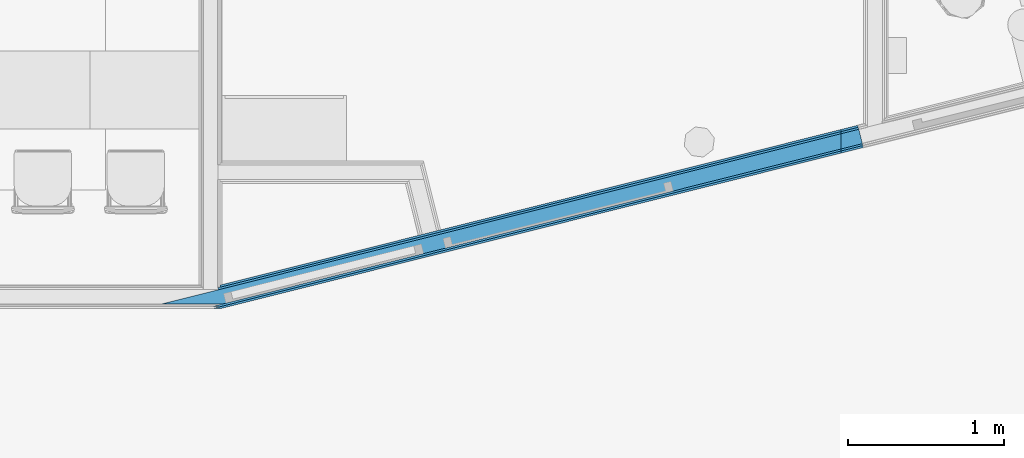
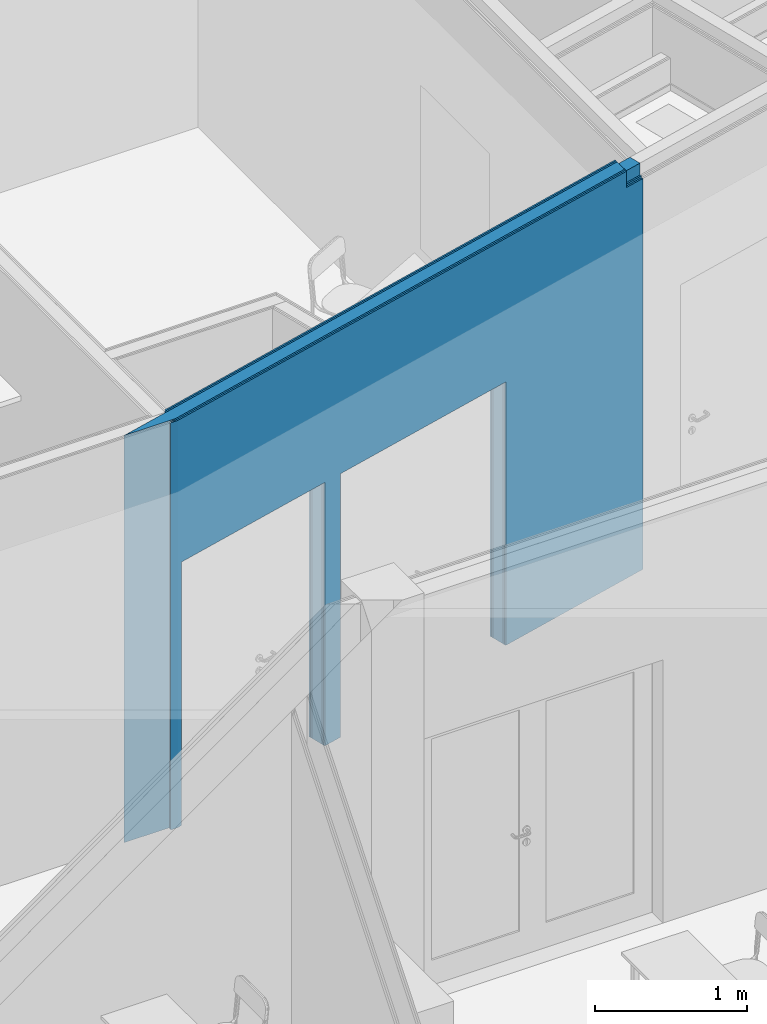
# One storey, part 53 of 153: 5 building element parts, 2 openings, 1 element without a shape of its own.
"""IFC2X3 building model written with IfcOpenShell, lengths in millimetres."""

from ifc_helpers import new_model, entity, si_unit, converted_unit, derived_unit, money_unit, direction, frame, origin_with_axes, place, context, subcontext, project, spatial, faceted_brep, material, type_object, element, aggregate, save


model = new_model("IFC2X3")

# Units and contexts
model_context = context("Model", 3, precision=0.01, world=origin_with_axes(), true_north=direction((0.0, 1.0)))
body_context = subcontext(model_context, "Body", "Model", "MODEL_VIEW")
ifc_project = project(units=[si_unit("LENGTHUNIT", "METRE", prefix="MILLI"), si_unit("AREAUNIT", "SQUARE_METRE"), si_unit("VOLUMEUNIT", "CUBIC_METRE"), converted_unit("PLANEANGLEUNIT", "DEGREE", entity("IfcPlaneAngleMeasure", 0.0174532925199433), si_unit("PLANEANGLEUNIT", "RADIAN"), dimensions=[0, 0, 0, 0, 0, 0, 0]), money_unit("EUR"), converted_unit("TIMEUNIT", "Year", entity("IfcTimeMeasure", 31557600.0), si_unit("TIMEUNIT", "SECOND"), dimensions=[0, 0, 1, 0, 0, 0, 0]), si_unit("MASSUNIT", "GRAM", prefix="KILO"), si_unit("THERMODYNAMICTEMPERATUREUNIT", "DEGREE_CELSIUS"), si_unit("LUMINOUSINTENSITYUNIT", "LUMEN"), si_unit("ENERGYUNIT", "JOULE", prefix="MEGA"), derived_unit("THERMALCONDUCTANCEUNIT", [(si_unit("POWERUNIT", "WATT"), 1), (si_unit("LENGTHUNIT", "METRE"), -1), (si_unit("THERMODYNAMICTEMPERATUREUNIT", "KELVIN"), -1)]), derived_unit("SPECIFICHEATCAPACITYUNIT", [(si_unit("ENERGYUNIT", "JOULE"), 1), (si_unit("MASSUNIT", "GRAM", prefix="KILO"), -1), (si_unit("THERMODYNAMICTEMPERATUREUNIT", "KELVIN"), -1)]), derived_unit("MASSDENSITYUNIT", [(si_unit("MASSUNIT", "GRAM", prefix="KILO"), 1), (si_unit("VOLUMEUNIT", "CUBIC_METRE"), -1)])], contexts=[model_context])

# Site, building, storey
site_placement = place(None, frame((0.0, 0.0, 8650.0), z_axis=(0.0, 0.0, 1.0), x_axis=(1.0, 0.0, 0.0)))
site = spatial("IfcSite", under=ifc_project, at=site_placement, Name="43301:001:0844", CompositionType="ELEMENT")
building_placement = place(site_placement, origin_with_axes())
building = spatial("IfcBuilding", under=site, at=building_placement, Name="Kuressaare Ametikooli tuulikute mehaanikute õppekorpus", CompositionType="ELEMENT")
storey_placement = place(building_placement, frame((0.0, 0.0, 4100.0), z_axis=(0.0, 0.0, 1.0), x_axis=(1.0, 0.0, 0.0)))
storey = spatial("IfcBuildingStorey", under=building, at=storey_placement, Name="2.korrus", CompositionType="ELEMENT", Elevation=4100.0)

# Wall, openings, building element parts
wall_type = type_object("IfcWallType", Name="SS-2.1 147", PredefinedType="NOTDEFINED")
wall_placement = place(storey_placement, frame((95668.0612605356, 18913.83737729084, 0.0), z_axis=(0.0, 0.0, 1.0), x_axis=(0.969995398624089, 0.2431232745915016, 0.0)))
wall = element("IfcWall", 1, at=wall_placement, inside=storey, type_object=wall_type, Name="Sisesein")
opening_1_placement = place(wall_placement, frame((2239.109441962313, 0.0, 0.0), z_axis=(0.0, 0.0, 1.0), x_axis=(1.0, 0.0, 0.0)))
element("IfcOpeningElement", 2, at=opening_1_placement, cuts=wall, Name="PU10+5,EI30", context=body_context, shape_type="Brep", body=[
    faceted_brep([(754.9999999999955, 1149.073947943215, 2110.0), (754.9999999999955, 1149.073947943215, 0.0), (-754.9999999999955, 1149.073947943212, 0.0), (-754.9999999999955, 1149.073947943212, 2110.0), (755.0000000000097, -1002.07394794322, 2110.0), (755.0000000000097, -1002.07394794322, 0.0), (-754.9999999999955, -1002.073947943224, 0.0), (-754.9999999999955, -1002.073947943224, 2110.0)], [[[0, 1, 2, 3]], [[4, 5, 1, 0]], [[5, 6, 2, 1]], [[6, 7, 3, 2]], [[7, 4, 0, 3]], [[6, 5, 4, 7]]]),
])
opening_2_placement = place(wall_placement, frame((686.9806939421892, 0.0, 0.0), z_axis=(0.0, 0.0, 1.0), x_axis=(1.0, 0.0, 0.0)))
element("IfcOpeningElement", 3, at=opening_2_placement, cuts=wall, Name="PU6,5+6,5", context=body_context, shape_type="Brep", body=[
    faceted_brep([(655.0000000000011, 1149.073947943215, 2110.0), (655.0000000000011, 1149.073947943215, 0.0), (-655.0000000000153, 1149.073947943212, 0.0), (-655.0000000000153, 1149.073947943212, 2110.0), (654.9999999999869, -1002.073947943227, 2110.0), (654.9999999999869, -1002.073947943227, 0.0), (-655.0000000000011, -1002.073947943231, 0.0), (-655.0000000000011, -1002.073947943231, 2110.0)], [[[0, 1, 2, 3]], [[4, 5, 1, 0]], [[5, 6, 2, 1]], [[6, 7, 3, 2]], [[7, 4, 0, 3]], [[6, 5, 4, 7]]]),
])
ifc_material_1 = material(Name="Kipsplaat")
building_element_part_1_placement = place(wall_placement, origin_with_axes())
building_element_part_1 = element("IfcBuildingElementPart", 4, at=building_element_part_1_placement, material=ifc_material_1, Name="Kipsplaat", context=body_context, shape_type="Brep", body=[
    faceted_brep([(31.98069394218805, 134.0000000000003, 0.0), (31.98069394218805, 134.0000000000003, 2110.0), (1341.980693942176, 134.0000000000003, 2110.0), (1341.980693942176, 134.0000000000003, 0.0), (1484.109441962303, 134.0000000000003, 0.0), (1484.109441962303, 134.0000000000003, 2110.0), (2994.109441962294, 134.0000000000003, 2110.0), (2994.109441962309, 133.9999999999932, 0.0), (4244.924289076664, 133.9999999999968, 0.0), (4244.924289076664, 133.9999999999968, 3129.999999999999), (4131.550842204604, 134.0000000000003, 3129.999999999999), (4131.553056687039, 133.9999999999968, 3259.999999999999), (20.19145186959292, 134.0000000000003, 3259.999999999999), (20.19145186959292, 134.0000000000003, 0.0), (31.98069394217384, 146.9999999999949, 0.0), (31.98069394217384, 146.9999999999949, 2110.0), (1341.980693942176, 146.9999999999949, 2110.0), (1341.980693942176, 146.9999999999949, 0.0), (1484.109441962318, 146.9999999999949, 0.0), (1484.109441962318, 146.9999999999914, 2110.0), (2994.109441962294, 146.9999999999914, 2110.0), (2994.109441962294, 146.9999999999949, 0.0), (4244.92428907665, 146.9999999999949, 0.0), (4244.92428907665, 146.9999999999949, 3129.999999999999), (4134.809209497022, 146.9999999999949, 3129.999999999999), (4134.811418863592, 147.000000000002, 3259.999999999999), (23.44982049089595, 146.9999999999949, 3259.999999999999), (23.44982049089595, 146.9999999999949, 0.0)], [[[0, 1, 2, 3, 4, 5, 6, 7, 8, 9, 10, 11, 12, 13]], [[1, 0, 14, 15]], [[2, 1, 15, 16]], [[3, 2, 16, 17]], [[3, 17, 18, 4]], [[4, 18, 19, 5]], [[5, 19, 20, 6]], [[6, 20, 21, 7]], [[21, 22, 8, 7]], [[8, 22, 23, 9]], [[23, 24, 10, 9]], [[25, 11, 10, 24]], [[26, 12, 11, 25]], [[26, 27, 13, 12]], [[14, 0, 13, 27]], [[15, 14, 27, 26, 25, 24, 23, 22, 21, 20, 19, 18, 17, 16]]]),
])
building_element_part_2_placement = place(wall_placement, origin_with_axes())
building_element_part_2 = element("IfcBuildingElementPart", 5, at=building_element_part_2_placement, material=ifc_material_1, Name="Kipsplaat", context=body_context, shape_type="Brep", body=[
    faceted_brep([(31.98069394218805, 120.9999999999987, 0.0), (31.98069394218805, 120.9999999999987, 2110.0), (1341.980693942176, 120.9999999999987, 2110.0), (1341.980693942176, 120.9999999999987, 0.0), (1484.109441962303, 120.9999999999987, 0.0), (1484.109441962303, 120.9999999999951, 2110.0), (2994.109441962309, 120.9999999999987, 2110.0), (2994.109441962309, 121.0000000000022, 0.0), (4244.924289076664, 120.9999999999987, 0.0), (4244.924289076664, 120.9999999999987, 3145.0), (4128.292474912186, 120.9999999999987, 3145.0), (4128.294694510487, 120.9999999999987, 3259.999999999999), (14.932987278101, 121.0000000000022, 3259.999999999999), (14.932987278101, 121.0000000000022, 0.0), (31.98069394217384, 134.0000000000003, 0.0), (31.98069394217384, 134.0000000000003, 2110.0), (1341.980693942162, 134.0000000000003, 2110.0), (1341.980693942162, 134.0000000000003, 0.0), (1484.109441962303, 134.0000000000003, 0.0), (1484.109441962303, 133.9999999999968, 2110.0), (2994.109441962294, 133.9999999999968, 2110.0), (2994.109441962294, 134.0000000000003, 0.0), (4244.924289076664, 134.0000000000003, 0.0), (4244.924289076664, 134.0000000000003, 3145.0), (4131.550842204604, 133.9999999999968, 3145.0), (4131.553056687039, 134.0000000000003, 3259.999999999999), (6.789326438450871, 134.0000000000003, 3259.999999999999), (4.204919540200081, 123.6889230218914, 3259.999999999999), (4.204919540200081, 123.6889230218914, 0.0), (6.789326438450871, 134.0000000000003, 0.0)], [[[0, 1, 2, 3, 4, 5, 6, 7, 8, 9, 10, 11, 12, 13]], [[1, 0, 14, 15]], [[2, 1, 15, 16]], [[3, 2, 16, 17]], [[3, 17, 18, 4]], [[4, 18, 19, 5]], [[5, 19, 20, 6]], [[6, 20, 21, 7]], [[21, 22, 8, 7]], [[8, 22, 23, 9]], [[23, 24, 10, 9]], [[25, 11, 10, 24]], [[12, 11, 25, 26, 27]], [[28, 13, 12, 27]], [[14, 0, 13, 28, 29]], [[15, 14, 29, 26, 25, 24, 23, 22, 21, 20, 19, 18, 17, 16]], [[26, 29, 28, 27]]]),
])
ifc_material_2 = material(Name="Soojustus - Mineraalvill pehme")
building_element_part_3_placement = place(wall_placement, origin_with_axes())
building_element_part_3 = element("IfcBuildingElementPart", 6, at=building_element_part_3_placement, material=ifc_material_2, Name="Soojustus - Mineraalvill pehme", context=body_context, shape_type="Brep", body=[
    faceted_brep([(31.98069394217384, 25.9999999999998, 0.0), (31.98069394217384, 25.9999999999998, 2110.0), (1341.98069394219, 25.9999999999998, 2110.0), (1341.98069394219, 25.9999999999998, 0.0), (1484.109441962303, 25.99999999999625, 0.0), (1484.109441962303, 25.99999999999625, 2110.0), (2994.109441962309, 25.9999999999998, 2110.0), (2994.109441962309, 25.9999999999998, 0.0), (4244.92428907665, 26.00000000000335, 0.0), (4244.92428907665, 26.00000000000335, 3240.0), (4104.481329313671, 25.9999999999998, 3240.0), (4104.483586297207, 26.00000000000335, 3259.999999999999), (3.208741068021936, 25.9999999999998, 3259.999999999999), (3.208741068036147, 25.99999999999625, 0.0), (31.98069394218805, 120.9999999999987, 0.0), (31.98069394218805, 120.9999999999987, 2110.0), (1341.98069394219, 120.9999999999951, 2110.0), (1341.980693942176, 120.9999999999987, 0.0), (1484.109441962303, 120.9999999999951, 0.0), (1484.109441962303, 120.9999999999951, 2110.0), (2994.109441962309, 120.9999999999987, 2110.0), (2994.109441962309, 120.9999999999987, 0.0), (4244.924289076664, 120.9999999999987, 0.0), (4244.924289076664, 120.9999999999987, 3240.0), (4128.292474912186, 120.9999999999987, 3240.0), (4128.294694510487, 120.9999999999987, 3259.999999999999), (-375.8152870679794, 120.9999999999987, 3259.999999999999), (-375.8152870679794, 120.9999999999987, 0.0)], [[[0, 1, 2, 3, 4, 5, 6, 7, 8, 9, 10, 11, 12, 13]], [[1, 0, 14, 15]], [[2, 1, 15, 16]], [[3, 2, 16, 17]], [[3, 17, 18, 4]], [[4, 18, 19, 5]], [[5, 19, 20, 6]], [[6, 20, 21, 7]], [[21, 22, 8, 7]], [[8, 22, 23, 9]], [[23, 24, 10, 9]], [[11, 10, 24, 25]], [[26, 12, 11, 25]], [[26, 27, 13, 12]], [[14, 0, 13, 27]], [[15, 14, 27, 26, 25, 24, 23, 22, 21, 20, 19, 18, 17, 16]]]),
])
building_element_part_4_placement = place(wall_placement, origin_with_axes())
building_element_part_4 = element("IfcBuildingElementPart", 7, at=building_element_part_4_placement, material=ifc_material_1, Name="Kipsplaat", context=body_context, shape_type="Brep", body=[
    faceted_brep([(31.98069394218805, 12.99999999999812, 0.0), (31.98069394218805, 12.99999999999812, 2110.0), (1341.980693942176, 12.99999999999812, 2110.0), (1341.980693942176, 12.99999999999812, 0.0), (1484.109441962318, 12.99999999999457, 0.0), (1484.109441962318, 12.99999999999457, 2110.0), (2994.109441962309, 12.99999999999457, 2110.0), (2994.109441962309, 12.99999999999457, 0.0), (4244.924289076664, 12.99999999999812, 0.0), (4244.924289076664, 12.99999999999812, 3145.0), (4101.222962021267, 12.99999999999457, 3145.0), (4101.225224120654, 12.99999999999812, 3259.999999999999), (1.604370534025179, 12.99999999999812, 3259.999999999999), (1.604370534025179, 12.99999999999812, 0.0), (31.98069394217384, 25.9999999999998, 0.0), (31.98069394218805, 26.00000000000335, 2110.0), (1341.98069394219, 26.00000000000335, 2110.0), (1341.98069394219, 25.99999999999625, 0.0), (1484.109441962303, 25.99999999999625, 0.0), (1484.109441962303, 25.9999999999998, 2110.0), (2994.109441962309, 25.9999999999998, 2110.0), (2994.109441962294, 25.99999999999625, 0.0), (4244.92428907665, 25.9999999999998, 0.0), (4244.92428907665, 25.9999999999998, 3145.0), (4104.481329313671, 25.9999999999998, 3145.0), (4104.483586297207, 25.9999999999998, 3259.999999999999), (-50.26207542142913, 25.9999999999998, 3259.999999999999), (-50.26207542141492, 25.99999999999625, 0.0)], [[[0, 1, 2, 3, 4, 5, 6, 7, 8, 9, 10, 11, 12, 13]], [[1, 0, 14, 15]], [[2, 1, 15, 16]], [[3, 2, 16, 17]], [[3, 17, 18, 4]], [[4, 18, 19, 5]], [[5, 19, 20, 6]], [[6, 20, 21, 7]], [[21, 22, 8, 7]], [[8, 22, 23, 9]], [[23, 24, 10, 9]], [[25, 11, 10, 24]], [[26, 12, 11, 25]], [[26, 27, 13, 12]], [[14, 0, 13, 27]], [[15, 14, 27, 26, 25, 24, 23, 22, 21, 20, 19, 18, 17, 16]]]),
])
building_element_part_5_placement = place(wall_placement, origin_with_axes())
building_element_part_5 = element("IfcBuildingElementPart", 8, at=building_element_part_5_placement, material=ifc_material_1, Name="Kipsplaat", context=body_context, shape_type="Brep", body=[
    faceted_brep([(31.98069394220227, 0.0, 0.0), (31.98069394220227, 0.0, 2110.0), (1341.98069394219, 0.0, 2110.0), (1341.98069394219, 0.0, 0.0), (1484.109441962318, 0.0, 0.0), (1484.109441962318, 0.0, 2110.0), (2994.109441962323, 0.0, 2110.0), (2994.109441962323, 0.0, 0.0), (4244.924289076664, 0.0, 0.0), (4244.924289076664, 0.0, 3129.999999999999), (4097.964594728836, 0.0, 3129.999999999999), (4097.966861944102, 0.0, 3259.999999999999), (0.0, 0.0, 3259.999999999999), (0.0, 0.0, 0.0), (31.98069394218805, 12.99999999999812, 0.0), (31.98069394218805, 12.99999999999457, 2110.0), (1341.980693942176, 12.99999999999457, 2110.0), (1341.980693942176, 12.99999999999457, 0.0), (1484.109441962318, 12.99999999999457, 0.0), (1484.109441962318, 12.99999999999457, 2110.0), (2994.109441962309, 12.99999999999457, 2110.0), (2994.109441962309, 12.99999999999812, 0.0), (4244.924289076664, 12.99999999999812, 0.0), (4244.924289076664, 12.99999999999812, 3129.999999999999), (4101.222962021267, 12.99999999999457, 3129.999999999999), (4101.225224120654, 12.99999999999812, 3259.999999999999), (-51.86644595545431, 12.99999999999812, 3259.999999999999), (-51.86644595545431, 12.99999999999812, 0.0)], [[[0, 1, 2, 3, 4, 5, 6, 7, 8, 9, 10, 11, 12, 13]], [[1, 0, 14, 15]], [[2, 1, 15, 16]], [[3, 2, 16, 17]], [[3, 17, 18, 4]], [[4, 18, 19, 5]], [[5, 19, 20, 6]], [[6, 20, 21, 7]], [[21, 22, 8, 7]], [[8, 22, 23, 9]], [[23, 24, 10, 9]], [[25, 11, 10, 24]], [[12, 11, 25, 26]], [[12, 26, 27, 13]], [[14, 0, 13, 27]], [[15, 14, 27, 26, 25, 24, 23, 22, 21, 20, 19, 18, 17, 16]]]),
])
aggregate(wall, [building_element_part_1, building_element_part_2, building_element_part_3, building_element_part_4, building_element_part_5])

save(model, "model.ifc")
